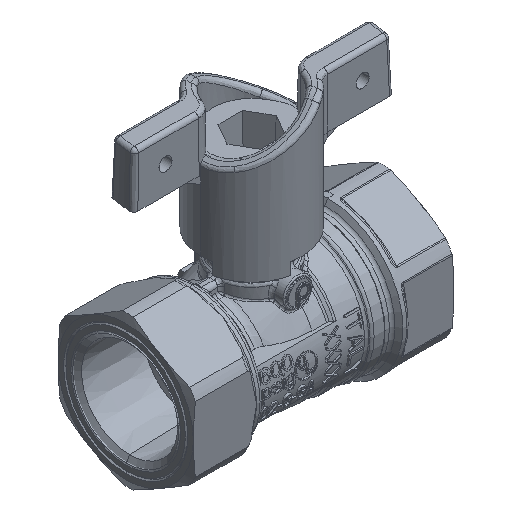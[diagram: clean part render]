
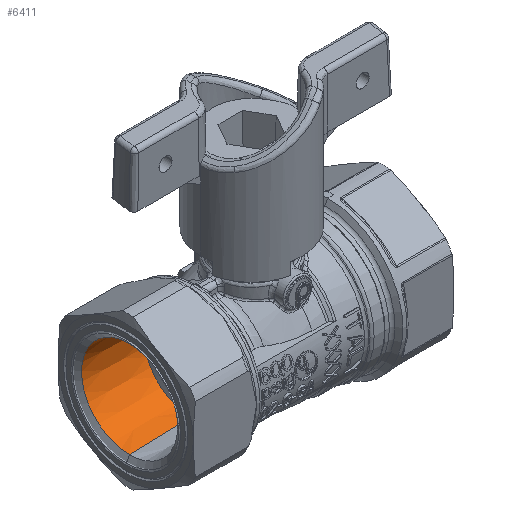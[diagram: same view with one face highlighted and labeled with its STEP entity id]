
A CAD part, isometric view. The second image highlights one B-rep face of the part: STEP entity #6411.
In plain terms, the highlighted conical face has half-angle 1.78 degrees and reference radius 0.457 mm.
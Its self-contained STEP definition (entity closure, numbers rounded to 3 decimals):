
#6263 = CONICAL_SURFACE('',#6264,0.499,1.047);
#6264 = AXIS2_PLACEMENT_3D('',#6265,#6266,#6267);
#6265 = CARTESIAN_POINT('',(30.117,-9.513,
    -16.018));
#6266 = DIRECTION('',(-1.,0.,0.));
#6267 = DIRECTION('',(0.,0.,1.));
#6306 = VERTEX_POINT('',#6307);
#6307 = CARTESIAN_POINT('',(30.136,-9.513,
    -15.551));
#6330 = VERTEX_POINT('',#6331);
#6331 = CARTESIAN_POINT('',(30.136,-9.513,
    -16.484));
#6367 = CONICAL_SURFACE('',#6368,0.457,0.031);
#6368 = AXIS2_PLACEMENT_3D('',#6369,#6370,#6371);
#6369 = CARTESIAN_POINT('',(30.432,-9.513,
    -16.018));
#6370 = DIRECTION('',(-1.,0.,0.));
#6371 = DIRECTION('',(0.,0.,1.));
#6384 = EDGE_CURVE('',#6306,#6330,#6385,.T.);
#6385 = SURFACE_CURVE('',#6386,(#6391,#6398),.PCURVE_S1.);
#6386 = CIRCLE('',#6387,0.466);
#6387 = AXIS2_PLACEMENT_3D('',#6388,#6389,#6390);
#6388 = CARTESIAN_POINT('',(30.136,-9.513,
    -16.018));
#6389 = DIRECTION('',(-1.,0.,0.));
#6390 = DIRECTION('',(0.,0.,1.));
#6391 = PCURVE('',#6263,#6392);
#6392 = DEFINITIONAL_REPRESENTATION('',(#6393),#6397);
#6393 = LINE('',#6394,#6395);
#6394 = CARTESIAN_POINT('',(0.,-0.019));
#6395 = VECTOR('',#6396,1.);
#6396 = DIRECTION('',(1.,0.));
#6397 = ( GEOMETRIC_REPRESENTATION_CONTEXT(2) 
PARAMETRIC_REPRESENTATION_CONTEXT() REPRESENTATION_CONTEXT('2D SPACE',''
  ) );
#6398 = PCURVE('',#6399,#6404);
#6399 = CONICAL_SURFACE('',#6400,0.457,0.031);
#6400 = AXIS2_PLACEMENT_3D('',#6401,#6402,#6403);
#6401 = CARTESIAN_POINT('',(30.432,-9.513,
    -16.018));
#6402 = DIRECTION('',(-1.,0.,0.));
#6403 = DIRECTION('',(0.,0.,1.));
#6404 = DEFINITIONAL_REPRESENTATION('',(#6405),#6409);
#6405 = LINE('',#6406,#6407);
#6406 = CARTESIAN_POINT('',(0.,0.296));
#6407 = VECTOR('',#6408,1.);
#6408 = DIRECTION('',(1.,0.));
#6409 = ( GEOMETRIC_REPRESENTATION_CONTEXT(2) 
PARAMETRIC_REPRESENTATION_CONTEXT() REPRESENTATION_CONTEXT('2D SPACE',''
  ) );
#6411 = ADVANCED_FACE('',(#6412),#6399,.F.);
#6412 = FACE_BOUND('',#6413,.T.);
#6413 = EDGE_LOOP('',(#6414,#6415,#6438,#6467));
#6414 = ORIENTED_EDGE('',*,*,#6384,.T.);
#6415 = ORIENTED_EDGE('',*,*,#6416,.F.);
#6416 = EDGE_CURVE('',#6417,#6330,#6419,.T.);
#6417 = VERTEX_POINT('',#6418);
#6418 = CARTESIAN_POINT('',(30.729,-9.513,
    -16.465));
#6419 = SURFACE_CURVE('',#6420,(#6424,#6431),.PCURVE_S1.);
#6420 = LINE('',#6421,#6422);
#6421 = CARTESIAN_POINT('',(30.729,-9.513,
    -16.465));
#6422 = VECTOR('',#6423,1.);
#6423 = DIRECTION('',(-1.,0.,-0.031));
#6424 = PCURVE('',#6399,#6425);
#6425 = DEFINITIONAL_REPRESENTATION('',(#6426),#6430);
#6426 = LINE('',#6427,#6428);
#6427 = CARTESIAN_POINT('',(3.142,-0.296));
#6428 = VECTOR('',#6429,1.);
#6429 = DIRECTION('',(0.,1.));
#6430 = ( GEOMETRIC_REPRESENTATION_CONTEXT(2) 
PARAMETRIC_REPRESENTATION_CONTEXT() REPRESENTATION_CONTEXT('2D SPACE',''
  ) );
#6431 = PCURVE('',#6367,#6432);
#6432 = DEFINITIONAL_REPRESENTATION('',(#6433),#6437);
#6433 = LINE('',#6434,#6435);
#6434 = CARTESIAN_POINT('',(3.142,-0.296));
#6435 = VECTOR('',#6436,1.);
#6436 = DIRECTION('',(0.,1.));
#6437 = ( GEOMETRIC_REPRESENTATION_CONTEXT(2) 
PARAMETRIC_REPRESENTATION_CONTEXT() REPRESENTATION_CONTEXT('2D SPACE',''
  ) );
#6438 = ORIENTED_EDGE('',*,*,#6439,.F.);
#6439 = EDGE_CURVE('',#6440,#6417,#6442,.T.);
#6440 = VERTEX_POINT('',#6441);
#6441 = CARTESIAN_POINT('',(30.729,-9.513,
    -15.57));
#6442 = SURFACE_CURVE('',#6443,(#6448,#6455),.PCURVE_S1.);
#6443 = CIRCLE('',#6444,0.448);
#6444 = AXIS2_PLACEMENT_3D('',#6445,#6446,#6447);
#6445 = CARTESIAN_POINT('',(30.729,-9.513,
    -16.018));
#6446 = DIRECTION('',(-1.,0.,0.));
#6447 = DIRECTION('',(0.,0.,1.));
#6448 = PCURVE('',#6399,#6449);
#6449 = DEFINITIONAL_REPRESENTATION('',(#6450),#6454);
#6450 = LINE('',#6451,#6452);
#6451 = CARTESIAN_POINT('',(0.,-0.296));
#6452 = VECTOR('',#6453,1.);
#6453 = DIRECTION('',(1.,0.));
#6454 = ( GEOMETRIC_REPRESENTATION_CONTEXT(2) 
PARAMETRIC_REPRESENTATION_CONTEXT() REPRESENTATION_CONTEXT('2D SPACE',''
  ) );
#6455 = PCURVE('',#6456,#6461);
#6456 = CONICAL_SURFACE('',#6457,0.426,1.309);
#6457 = AXIS2_PLACEMENT_3D('',#6458,#6459,#6460);
#6458 = CARTESIAN_POINT('',(30.735,-9.513,
    -16.018));
#6459 = DIRECTION('',(-1.,0.,0.));
#6460 = DIRECTION('',(0.,0.,1.));
#6461 = DEFINITIONAL_REPRESENTATION('',(#6462),#6466);
#6462 = LINE('',#6463,#6464);
#6463 = CARTESIAN_POINT('',(0.,0.006));
#6464 = VECTOR('',#6465,1.);
#6465 = DIRECTION('',(1.,0.));
#6466 = ( GEOMETRIC_REPRESENTATION_CONTEXT(2) 
PARAMETRIC_REPRESENTATION_CONTEXT() REPRESENTATION_CONTEXT('2D SPACE',''
  ) );
#6467 = ORIENTED_EDGE('',*,*,#6468,.T.);
#6468 = EDGE_CURVE('',#6440,#6306,#6469,.T.);
#6469 = SURFACE_CURVE('',#6470,(#6474,#6481),.PCURVE_S1.);
#6470 = LINE('',#6471,#6472);
#6471 = CARTESIAN_POINT('',(30.729,-9.513,
    -15.57));
#6472 = VECTOR('',#6473,1.);
#6473 = DIRECTION('',(-1.,0.,0.031));
#6474 = PCURVE('',#6399,#6475);
#6475 = DEFINITIONAL_REPRESENTATION('',(#6476),#6480);
#6476 = LINE('',#6477,#6478);
#6477 = CARTESIAN_POINT('',(0.,-0.296));
#6478 = VECTOR('',#6479,1.);
#6479 = DIRECTION('',(0.,1.));
#6480 = ( GEOMETRIC_REPRESENTATION_CONTEXT(2) 
PARAMETRIC_REPRESENTATION_CONTEXT() REPRESENTATION_CONTEXT('2D SPACE',''
  ) );
#6481 = PCURVE('',#6367,#6482);
#6482 = DEFINITIONAL_REPRESENTATION('',(#6483),#6487);
#6483 = LINE('',#6484,#6485);
#6484 = CARTESIAN_POINT('',(6.283,-0.296));
#6485 = VECTOR('',#6486,1.);
#6486 = DIRECTION('',(0.,1.));
#6487 = ( GEOMETRIC_REPRESENTATION_CONTEXT(2) 
PARAMETRIC_REPRESENTATION_CONTEXT() REPRESENTATION_CONTEXT('2D SPACE',''
  ) );
